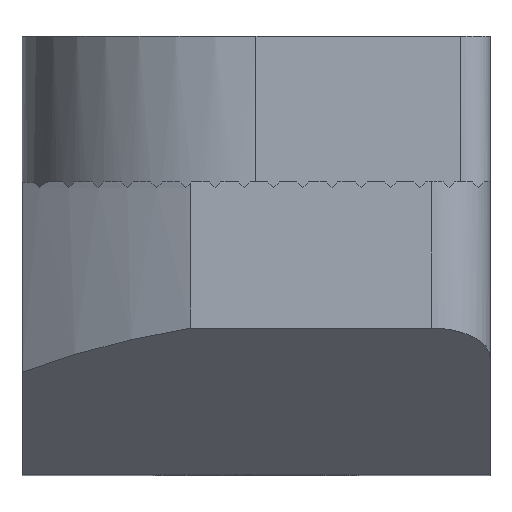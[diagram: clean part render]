
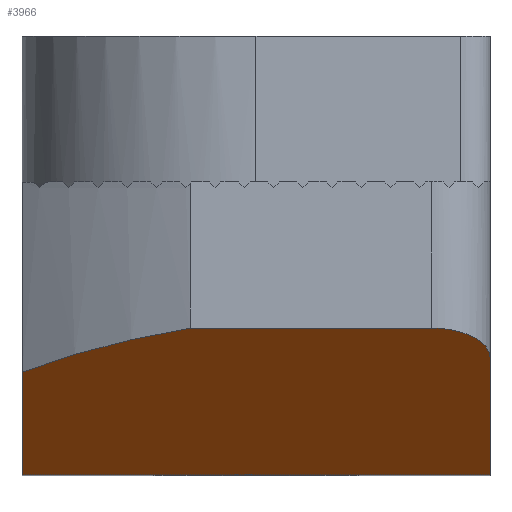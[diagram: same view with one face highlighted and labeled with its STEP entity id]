
A CAD part, top view. The second image highlights one B-rep face of the part: STEP entity #3966.
In plain terms, the highlighted planar face has unit normal (0, -0.894, 0.447).
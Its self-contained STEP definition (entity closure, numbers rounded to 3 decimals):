
#100 = VECTOR ( 'NONE', #1247, 1000. ) ;
#217 = LINE ( 'NONE', #1637, #100 ) ;
#257 = CARTESIAN_POINT ( 'NONE',  ( 4., -2.707, 9.086 ) ) ;
#454 = ORIENTED_EDGE ( 'NONE', *, *, #1431, .F. ) ;
#503 = EDGE_CURVE ( 'NONE', #3911, #4060, #2738, .T. ) ;
#507 = DIRECTION ( 'NONE',  ( 0., 0.447, 0.894 ) ) ;
#523 = VECTOR ( 'NONE', #1662, 1000. ) ;
#591 = EDGE_CURVE ( 'NONE', #844, #1266, #2426, .T. ) ;
#601 = CARTESIAN_POINT ( 'NONE',  ( 3.586, -2.5, 9.5 ) ) ;
#621 = DIRECTION ( 'NONE',  ( 0., 0.447, 0.894 ) ) ;
#643 = CARTESIAN_POINT ( 'NONE',  ( -4., -2.5, 9.5 ) ) ;
#805 = CARTESIAN_POINT ( 'NONE',  ( -1.122, -2.5, 9.5 ) ) ;
#844 = VERTEX_POINT ( 'NONE', #805 ) ;
#1247 = DIRECTION ( 'NONE',  ( 1., 0., 0. ) ) ;
#1266 = VERTEX_POINT ( 'NONE', #3115 ) ;
#1293 = FACE_OUTER_BOUND ( 'NONE', #3079, .T. ) ;
#1299 = PLANE ( 'NONE',  #3543 ) ;
#1346 =( BOUNDED_CURVE ( )  B_SPLINE_CURVE ( 3, ( #2244, #257, #601, #2868 ),
 .UNSPECIFIED., .F., .T. ) 
 B_SPLINE_CURVE_WITH_KNOTS ( ( 4, 4 ),
 ( 4.712, 6.283 ),
 .UNSPECIFIED. ) 
 CURVE ( )  GEOMETRIC_REPRESENTATION_ITEM ( )  RATIONAL_B_SPLINE_CURVE ( ( 1., 0.805, 0.805, 1. ) ) 
 REPRESENTATION_ITEM ( '' )  );
#1380 = EDGE_CURVE ( 'NONE', #2220, #1266, #1346, .T. ) ;
#1431 = EDGE_CURVE ( 'NONE', #4060, #844, #1764, .T. ) ;
#1438 = EDGE_CURVE ( 'NONE', #3911, #2893, #217, .T. ) ;
#1577 = ORIENTED_EDGE ( 'NONE', *, *, #1438, .T. ) ;
#1637 = CARTESIAN_POINT ( 'NONE',  ( -4., -5., 4.5 ) ) ;
#1662 = DIRECTION ( 'NONE',  ( 0., 0.447, 0.894 ) ) ;
#1764 =( BOUNDED_CURVE ( )  B_SPLINE_CURVE ( 3, ( #3482, #3176, #3792, #2599 ),
 .UNSPECIFIED., .F., .T. ) 
 B_SPLINE_CURVE_WITH_KNOTS ( ( 4, 4 ),
 ( 5.64, 5.966 ),
 .UNSPECIFIED. ) 
 CURVE ( )  GEOMETRIC_REPRESENTATION_ITEM ( )  RATIONAL_B_SPLINE_CURVE ( ( 1., 0.991, 0.991, 1. ) ) 
 REPRESENTATION_ITEM ( '' )  );
#2220 = VERTEX_POINT ( 'NONE', #4145 ) ;
#2244 = CARTESIAN_POINT ( 'NONE',  ( 4., -3., 8.5 ) ) ;
#2260 = CARTESIAN_POINT ( 'NONE',  ( -4., -2.5, 9.5 ) ) ;
#2304 = ORIENTED_EDGE ( 'NONE', *, *, #3996, .T. ) ;
#2385 = VECTOR ( 'NONE', #3200, 1000. ) ;
#2426 = LINE ( 'NONE', #643, #2385 ) ;
#2583 = DIRECTION ( 'NONE',  ( 0., 0.894, -0.447 ) ) ;
#2599 = CARTESIAN_POINT ( 'NONE',  ( -1.122, -2.5, 9.5 ) ) ;
#2610 = ORIENTED_EDGE ( 'NONE', *, *, #1380, .T. ) ;
#2634 = VECTOR ( 'NONE', #507, 1000. ) ;
#2738 = LINE ( 'NONE', #3377, #2634 ) ;
#2868 = CARTESIAN_POINT ( 'NONE',  ( 3., -2.5, 9.5 ) ) ;
#2893 = VERTEX_POINT ( 'NONE', #3969 ) ;
#3046 = LINE ( 'NONE', #3505, #523 ) ;
#3079 = EDGE_LOOP ( 'NONE', ( #2304, #2610, #4150, #454, #3983, #1577 ) ) ;
#3115 = CARTESIAN_POINT ( 'NONE',  ( 3., -2.5, 9.5 ) ) ;
#3176 = CARTESIAN_POINT ( 'NONE',  ( -3.127, -2.923, 8.655 ) ) ;
#3200 = DIRECTION ( 'NONE',  ( 1., 0., 0. ) ) ;
#3377 = CARTESIAN_POINT ( 'NONE',  ( -4., -2.5, 9.5 ) ) ;
#3482 = CARTESIAN_POINT ( 'NONE',  ( -4., -3.25, 8. ) ) ;
#3505 = CARTESIAN_POINT ( 'NONE',  ( 4., -2.5, 9.5 ) ) ;
#3526 = CARTESIAN_POINT ( 'NONE',  ( -4., -3.25, 8. ) ) ;
#3543 = AXIS2_PLACEMENT_3D ( 'NONE', #2260, #2583, #621 ) ;
#3641 = CARTESIAN_POINT ( 'NONE',  ( -4., -5., 4.5 ) ) ;
#3792 = CARTESIAN_POINT ( 'NONE',  ( -2.159, -2.67, 9.159 ) ) ;
#3911 = VERTEX_POINT ( 'NONE', #3641 ) ;
#3966 = ADVANCED_FACE ( 'NONE', ( #1293 ), #1299, .F. ) ;
#3969 = CARTESIAN_POINT ( 'NONE',  ( 4., -5., 4.5 ) ) ;
#3983 = ORIENTED_EDGE ( 'NONE', *, *, #503, .F. ) ;
#3996 = EDGE_CURVE ( 'NONE', #2893, #2220, #3046, .T. ) ;
#4060 = VERTEX_POINT ( 'NONE', #3526 ) ;
#4145 = CARTESIAN_POINT ( 'NONE',  ( 4., -3., 8.5 ) ) ;
#4150 = ORIENTED_EDGE ( 'NONE', *, *, #591, .F. ) ;
